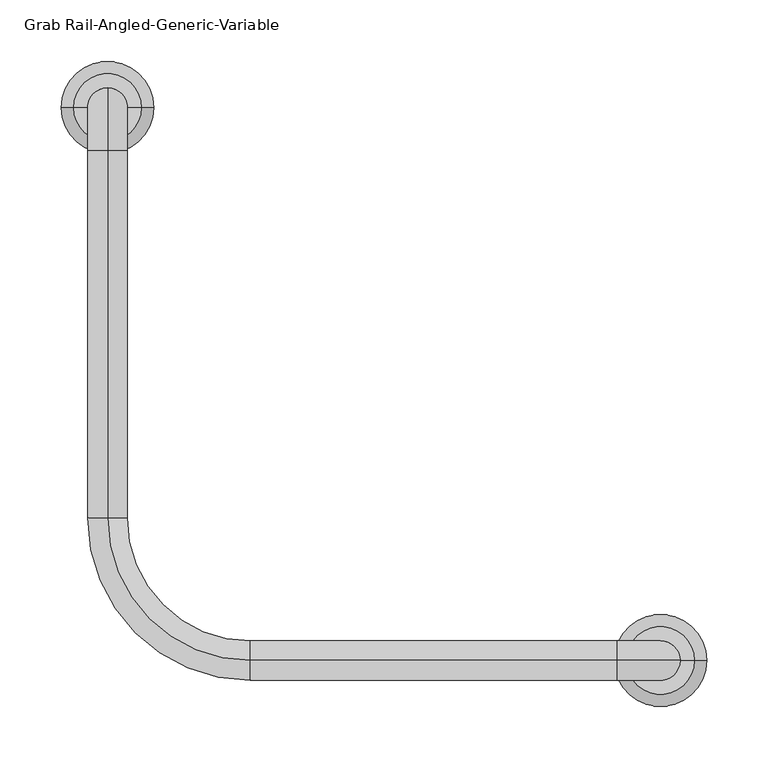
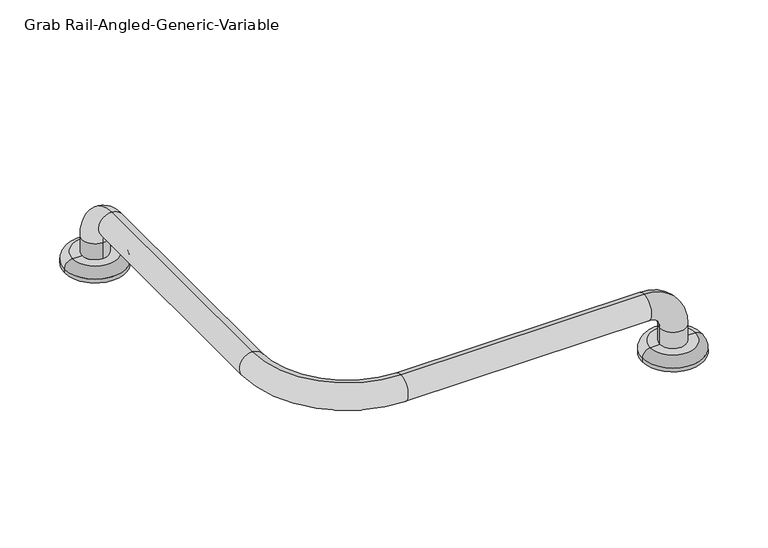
"""IFC4 building model written with IfcOpenShell, lengths in millimetres: proxy geometry, Grab Rail-Angled-Generic-Variable : Ambulant-32Ø 450+450@90°."""

from ifc_helpers import new_model, si_unit, point, frame, origin, place, context, project, spatial, circle_curve, ellipse_curve, trimmed, source, transform, mapped, element, save
from ifc_brep_helpers import plane_surface, cylinder_surface, revolved_surface, advanced_brep


def grab_rail_angled_generic_variable_c761e824(model_context):
    return source(origin(), model_context, "Body", "AdvancedBrep", [
        advanced_brep(
        [(187.5, 0.0, 0.0), (262.5, 0.0, 0.0), (241.0, 0.0, 0.0), (225.0, 0.0, 0.0), (209.0, 0.0, 0.0), (252.5, 0.0, 15.0), (197.5, 0.0, 15.0), (209.0, 0.0, 15.0), (241.0, 0.0, 15.0), (262.5, 0.0, 5.0), (187.5, 0.0, 5.0), (-252.5, 450.0, 15.0), (-197.5, 450.0, 15.0), (-209.0, 450.0, 15.0), (-225.0, 434.0, 15.0), (-241.0, 450.0, 15.0), (-225.0, 466.0, 15.0), (-262.5, 450.0, 5.0), (-187.5, 450.0, 5.0), (-262.5, 450.0, 0.0), (-187.5, 450.0, 0.0), (241.0, 0.0, 36.0), (209.0, 0.0, 36.0), (190.0, 0.0, 87.0), (190.0, 0.0, 55.0), (-109.0, 0.0, 87.0), (-109.0, 0.0, 55.0), (-225.0, 116.0, 55.0), (-225.0, 116.0, 87.0), (-225.0, 415.0, 87.0), (-225.0, 415.0, 55.0), (-225.0, 466.0, 36.0), (-225.0, 434.0, 36.0)],
        [
            (0, 1, circle_curve(frame((225.0, 0.0, 0.0), z_axis=(0.0, 0.0, -1.0), x_axis=(1.0, 0.0, 0.0)), 37.5)),
            (1, 2),
            (2, 3),
            (3, 4),
            (4, 0),
            (1, 0, circle_curve(frame((225.0, 0.0, 0.0), z_axis=(0.0, 0.0, -1.0), x_axis=(1.0, 0.0, 0.0)), 37.5)),
            (5, 6, circle_curve(frame((225.0, 0.0, 15.0), z_axis=(0.0, 0.0, 1.0), x_axis=(1.0, 0.0, 0.0)), 27.5)),
            (6, 7),
            (7, 8, circle_curve(frame((225.0, 0.0, 15.0), z_axis=(0.0, 0.0, -1.0), x_axis=(-1.0, 0.0, 0.0)), 16.0)),
            (8, 5),
            (6, 5, circle_curve(frame((225.0, 0.0, 15.0), z_axis=(0.0, 0.0, 1.0), x_axis=(1.0, 0.0, 0.0)), 27.5)),
            (8, 7, circle_curve(frame((225.0, 0.0, 15.0), z_axis=(0.0, 0.0, -1.0), x_axis=(-1.0, 0.0, 0.0)), 16.0)),
            (5, 9, circle_curve(frame((252.5, 0.0, 5.0), z_axis=(0.0, 1.0, 0.0), x_axis=(-1.0, 0.0, 0.0)), 10.0)),
            (9, 10, circle_curve(frame((225.0, 0.0, 5.0), z_axis=(0.0, 0.0, 1.0), x_axis=(1.0, 0.0, 0.0)), 37.5)),
            (10, 6, circle_curve(frame((197.5, 0.0, 5.0), z_axis=(0.0, 1.0, 0.0), x_axis=(1.0, 0.0, 0.0)), 10.0)),
            (10, 9, circle_curve(frame((225.0, 0.0, 5.0), z_axis=(0.0, 0.0, 1.0), x_axis=(1.0, 0.0, 0.0)), 37.5)),
            (0, 10),
            (9, 1),
            (11, 12, circle_curve(frame((-225.0, 450.0, 15.0), z_axis=(0.0, 0.0, 1.0), x_axis=(-1.0, 0.0, 0.0)), 27.5)),
            (12, 13),
            (13, 14, circle_curve(frame((-225.0, 450.0, 15.0), z_axis=(0.0, 0.0, -1.0), x_axis=(0.0, -1.0, 0.0)), 16.0)),
            (14, 15, circle_curve(frame((-225.0, 450.0, 15.0), z_axis=(0.0, 0.0, -1.0), x_axis=(0.0, -1.0, 0.0)), 16.0)),
            (15, 11),
            (12, 11, circle_curve(frame((-225.0, 450.0, 15.0), z_axis=(0.0, 0.0, 1.0), x_axis=(-1.0, 0.0, 0.0)), 27.5)),
            (15, 16, circle_curve(frame((-225.0, 450.0, 15.0), z_axis=(0.0, 0.0, -1.0), x_axis=(0.0, -1.0, 0.0)), 16.0)),
            (16, 13, circle_curve(frame((-225.0, 450.0, 15.0), z_axis=(0.0, 0.0, -1.0), x_axis=(0.0, -1.0, 0.0)), 16.0)),
            (11, 17, circle_curve(frame((-252.5, 450.0, 5.0), z_axis=(0.0, -1.0, 0.0), x_axis=(-1.0, 0.0, 0.0)), 10.0)),
            (17, 18, circle_curve(frame((-225.0, 450.0, 5.0), z_axis=(0.0, 0.0, 1.0), x_axis=(-1.0, 0.0, 0.0)), 37.5)),
            (18, 12, circle_curve(frame((-197.5, 450.0, 5.0), z_axis=(0.0, -1.0, 0.0), x_axis=(1.0, 0.0, 0.0)), 10.0)),
            (18, 17, circle_curve(frame((-225.0, 450.0, 5.0), z_axis=(0.0, 0.0, 1.0), x_axis=(-1.0, 0.0, 0.0)), 37.5)),
            (19, 20, circle_curve(frame((-225.0, 450.0, 0.0), z_axis=(0.0, 0.0, 1.0), x_axis=(-1.0, 0.0, 0.0)), 37.5)),
            (20, 18),
            (17, 19),
            (20, 19, circle_curve(frame((-225.0, 450.0, 0.0), z_axis=(0.0, 0.0, 1.0), x_axis=(-1.0, 0.0, 0.0)), 37.5)),
            (21, 22, circle_curve(frame((225.0, 0.0, 36.0), z_axis=(0.0, 0.0, -1.0), x_axis=(-1.0, 0.0, 0.0)), 16.0)),
            (22, 7),
            (8, 21),
            (22, 21, circle_curve(frame((225.0, 0.0, 36.0), z_axis=(0.0, 0.0, -1.0), x_axis=(-1.0, 0.0, 0.0)), 16.0)),
            (21, 23, circle_curve(frame((190.0, 0.0, 36.0), z_axis=(0.0, -1.0, 0.0), x_axis=(1.0, 0.0, 0.0)), 51.0)),
            (23, 24, circle_curve(frame((190.0, 0.0, 71.0), z_axis=(1.0, 0.0, 0.0), x_axis=(0.0, 0.0, -1.0)), 16.0)),
            (24, 22, circle_curve(frame((190.0, 0.0, 36.0), z_axis=(0.0, 1.0, 0.0), x_axis=(1.0, 0.0, 0.0)), 19.0)),
            (24, 23, circle_curve(frame((190.0, 0.0, 71.0), z_axis=(1.0, 0.0, 0.0), x_axis=(0.0, 0.0, -1.0)), 16.0)),
            (23, 25),
            (25, 26, circle_curve(frame((-109.0, 0.0, 71.0), z_axis=(1.0, 0.0, 0.0), x_axis=(0.0, 0.0, -1.0)), 16.0)),
            (26, 24),
            (26, 25, circle_curve(frame((-109.0, 0.0, 71.0), z_axis=(1.0, 0.0, 0.0), x_axis=(0.0, 0.0, -1.0)), 16.0)),
            (27, 28, circle_curve(frame((-225.0, 116.0, 71.0), z_axis=(0.0, 1.0, 0.0), x_axis=(0.0, 0.0, -1.0)), 16.0)),
            (28, 29),
            (29, 30, circle_curve(frame((-225.0, 415.0, 71.0), z_axis=(0.0, -1.0, 0.0), x_axis=(0.0, 0.0, -1.0)), 16.0)),
            (30, 27),
            (28, 27, circle_curve(frame((-225.0, 116.0, 71.0), z_axis=(0.0, 1.0, 0.0), x_axis=(0.0, 0.0, -1.0)), 16.0)),
            (30, 29, circle_curve(frame((-225.0, 415.0, 71.0), z_axis=(0.0, -1.0, 0.0), x_axis=(0.0, 0.0, -1.0)), 16.0)),
            (29, 31, circle_curve(frame((-225.0, 415.0, 36.0), z_axis=(-1.0, 0.0, 0.0), x_axis=(0.0, 0.0, 1.0)), 51.0)),
            (31, 32, circle_curve(frame((-225.0, 450.0, 36.0), z_axis=(0.0, 0.0, 1.0), x_axis=(0.0, -1.0, 0.0)), 16.0)),
            (32, 30, circle_curve(frame((-225.0, 415.0, 36.0), z_axis=(1.0, 0.0, 0.0), x_axis=(0.0, 0.0, 1.0)), 19.0)),
            (32, 31, circle_curve(frame((-225.0, 450.0, 36.0), z_axis=(0.0, 0.0, 1.0), x_axis=(0.0, -1.0, 0.0)), 16.0)),
            (31, 16),
            (14, 32),
            (25, 28, circle_curve(frame((-109.0, 116.0, 87.0), z_axis=(0.0, 0.0, -1.0), x_axis=(0.0, -1.0, 0.0)), 116.0)),
            (27, 26, circle_curve(frame((-109.0, 116.0, 55.0), z_axis=(0.0, 0.0, 1.0), x_axis=(0.0, -1.0, 0.0)), 116.0)),
        ],
        [
            plane_surface(frame((225.0, 0.0, 0.0), z_axis=(0.0, 0.0, -1.0), x_axis=(1.0, 0.0, 0.0))),
            plane_surface(frame((225.0, 0.0, 15.0), z_axis=(0.0, 0.0, 1.0), x_axis=(1.0, 0.0, 0.0))),
            revolved_surface(trimmed(ellipse_curve(frame((252.5, 0.0, 5.0), z_axis=(0.0, -1.0, 0.0), x_axis=(-1.0, 0.0, 0.0)), 10.0, 10.0), [point((262.5, 0.0, 5.0))], [point((252.5, 0.0, 15.0))], True, "CARTESIAN"), (225.0, 0.0, 0.0), (0.0, 0.0, 1.0)),
            cylinder_surface(frame((225.0, 0.0, 0.0), z_axis=(0.0, 0.0, 1.0), x_axis=(1.0, 0.0, 0.0)), 37.5),
            plane_surface(frame((-225.0, 450.0, 15.0), z_axis=(0.0, 0.0, 1.0), x_axis=(-1.0, 0.0, 0.0))),
            revolved_surface(trimmed(ellipse_curve(frame((-252.5, 450.0, 5.0), z_axis=(0.0, 1.0, 0.0), x_axis=(-1.0, 0.0, 0.0)), 10.0, 10.0), [point((-262.5, 450.0, 5.0))], [point((-252.5, 450.0, 15.0))], True, "CARTESIAN"), (-225.0, 450.0, 0.0), (0.0, 0.0, 1.0)),
            cylinder_surface(frame((-225.0, 450.0, 0.0), z_axis=(0.0, 0.0, 1.0), x_axis=(-1.0, 0.0, 0.0)), 37.5),
            cylinder_surface(frame((225.0, 0.0, 0.0), z_axis=(0.0, 0.0, -1.0), x_axis=(-1.0, 0.0, 0.0)), 16.0),
            revolved_surface(trimmed(ellipse_curve(frame((225.0, 0.0, 36.0), z_axis=(0.0, 0.0, -1.0), x_axis=(-1.0, 0.0, 0.0)), 16.0, 16.0), [point((241.0, 0.0, 36.0))], [point((209.0, 0.0, 36.0))], True, "CARTESIAN"), (190.0, 0.0, 36.0), (0.0, -1.0, 0.0)),
            revolved_surface(trimmed(ellipse_curve(frame((225.0, 0.0, 36.0), z_axis=(0.0, 0.0, -1.0), x_axis=(-1.0, 0.0, 0.0)), 16.0, 16.0), [point((209.0, 0.0, 36.0))], [point((241.0, 0.0, 36.0))], True, "CARTESIAN"), (190.0, 0.0, 36.0), (0.0, -1.0, 0.0)),
            cylinder_surface(frame((190.0, 0.0, 71.0), z_axis=(1.0, 0.0, 0.0), x_axis=(0.0, 0.0, -1.0)), 16.0),
            cylinder_surface(frame((-225.0, 116.0, 71.0), z_axis=(0.0, -1.0, 0.0), x_axis=(0.0, 0.0, -1.0)), 16.0),
            revolved_surface(trimmed(ellipse_curve(frame((-225.0, 415.0, 71.0), z_axis=(0.0, -1.0, 0.0), x_axis=(0.0, 0.0, -1.0)), 16.0, 16.0), [point((-225.0, 415.0, 87.0))], [point((-225.0, 415.0, 55.0))], True, "CARTESIAN"), (-225.0, 415.0, 36.0), (-1.0, 0.0, 0.0)),
            revolved_surface(trimmed(ellipse_curve(frame((-225.0, 415.0, 71.0), z_axis=(0.0, -1.0, 0.0), x_axis=(0.0, 0.0, -1.0)), 16.0, 16.0), [point((-225.0, 415.0, 55.0))], [point((-225.0, 415.0, 87.0))], True, "CARTESIAN"), (-225.0, 415.0, 36.0), (-1.0, 0.0, 0.0)),
            plane_surface(frame((-225.0, 434.0, 0.0), z_axis=(0.0, 0.0, -1.0), x_axis=(-1.0, 0.0, 0.0))),
            cylinder_surface(frame((-225.0, 450.0, 36.0), z_axis=(0.0, 0.0, 1.0), x_axis=(0.0, -1.0, 0.0)), 16.0),
            revolved_surface(trimmed(ellipse_curve(frame((-109.0, 0.0, 71.0), z_axis=(1.0, 0.0, 0.0), x_axis=(0.0, 0.0, -1.0)), 16.0, 16.0), [point((-109.0, 0.0, 87.0))], [point((-109.0, 0.0, 55.0))], True, "CARTESIAN"), (-109.0, 116.0, 71.0), (0.0, 0.0, -1.0)),
            revolved_surface(trimmed(ellipse_curve(frame((-109.0, 0.0, 71.0), z_axis=(1.0, 0.0, 0.0), x_axis=(0.0, 0.0, -1.0)), 16.0, 16.0), [point((-109.0, 0.0, 55.0))], [point((-109.0, 0.0, 87.0))], True, "CARTESIAN"), (-109.0, 116.0, 71.0), (0.0, 0.0, -1.0)),
        ],
        [
            (0, [[1, 2, 3, 4, 5]]),
            (0, [[6, -5, -4, -3, -2]]),
            (1, [[7, 8, 9, 10]]),
            (1, [[11, -10, 12, -8]]),
            (2, [[-7, 13, 14, 15]]),
            (2, [[-11, -15, 16, -13]]),
            (3, [[-1, 17, -14, 18]]),
            (3, [[-6, -18, -16, -17]]),
            (4, [[19, 20, 21, 22, 23]]),
            (4, [[24, -23, 25, 26, -20]]),
            (5, [[-19, 27, 28, 29]]),
            (5, [[-24, -29, 30, -27]]),
            (6, [[31, 32, -28, 33]]),
            (6, [[34, -33, -30, -32]]),
            (7, [[35, 36, -12, 37]]),
            (7, [[38, -37, -9, -36]]),
            (8, [[-35, 39, 40, 41]]),
            (9, [[-38, -41, 42, -39]]),
            (10, [[-40, 43, 44, 45]]),
            (10, [[-42, -45, 46, -43]]),
            (11, [[47, 48, 49, 50]]),
            (11, [[-48, 51, -50, 52]]),
            (12, [[-49, 53, 54, 55]]),
            (13, [[-52, -55, 56, -53]]),
            (14, [[-31, -34]]),
            (15, [[-54, 57, -25, -22, 58]]),
            (15, [[-56, -58, -21, -26, -57]]),
            (16, [[-44, 59, -47, 60]]),
            (17, [[-46, -60, -51, -59]]),
        ],
    ),
    ])


if __name__ == "__main__":
    model = new_model("IFC4")
    model_context = context("Model", 3, world=origin())
    ifc_project = project(units=[si_unit("LENGTHUNIT", "METRE", prefix="MILLI")], contexts=[model_context])
    site = spatial("IfcSite", under=ifc_project)
    building = spatial("IfcBuilding", under=site)
    placement = place(None, origin())
    grab_rail_angled_generic_variable_shape = grab_rail_angled_generic_variable_c761e824(model_context)
    element("IfcBuildingElementProxy", 1, Name="Grab Rail-Angled-Generic-Variable : Ambulant-32Ø 450+450@90°", ObjectType="Grab Rail-Angled-Generic-Variable : Ambulant-32Ø 450+450@90°", at=placement, inside=building, context=model_context, shape_type="MappedRepresentation", body=[
        mapped(grab_rail_angled_generic_variable_shape, transform((0.0, 0.0, 0.0), x_axis=(1.0, 0.0, 0.0), y_axis=(0.0, 1.0, 0.0), z_axis=(0.0, 0.0, 1.0))),
    ])
    save(model, "model.ifc")
